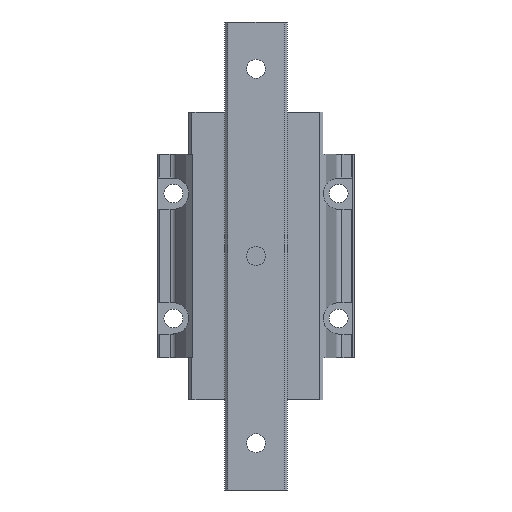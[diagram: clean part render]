
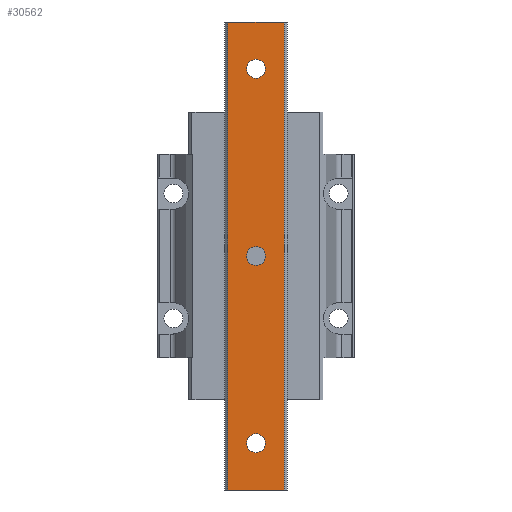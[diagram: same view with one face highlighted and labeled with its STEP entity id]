
A CAD part, front view. The second image highlights one B-rep face of the part: STEP entity #30562.
In plain terms, the highlighted planar face has unit normal (0, -1, 0).
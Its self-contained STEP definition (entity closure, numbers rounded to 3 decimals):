
#55 = CARTESIAN_POINT ( 'NONE',  ( 0., -17.5, -60. ) ) ;
#101 = EDGE_CURVE ( 'NONE', #19332, #13066, #31124, .T. ) ;
#131 = EDGE_LOOP ( 'NONE', ( #15120, #4806 ) ) ;
#446 = DIRECTION ( 'NONE',  ( 0., 1., 0. ) ) ;
#956 = CARTESIAN_POINT ( 'NONE',  ( 0., -17.5, 3. ) ) ;
#1385 = CIRCLE ( 'NONE', #14229, 3. ) ;
#2166 = CARTESIAN_POINT ( 'NONE',  ( 0., -17.5, 0. ) ) ;
#2475 = VERTEX_POINT ( 'NONE', #22530 ) ;
#2625 = LINE ( 'NONE', #31732, #27659 ) ;
#2924 = EDGE_LOOP ( 'NONE', ( #3908, #13651 ) ) ;
#3334 = CARTESIAN_POINT ( 'NONE',  ( 0., -17.5, 63. ) ) ;
#3851 = ORIENTED_EDGE ( 'NONE', *, *, #19208, .T. ) ;
#3908 = ORIENTED_EDGE ( 'NONE', *, *, #6992, .T. ) ;
#4785 = AXIS2_PLACEMENT_3D ( 'NONE', #8993, #29341, #15359 ) ;
#4806 = ORIENTED_EDGE ( 'NONE', *, *, #28007, .T. ) ;
#5387 = CARTESIAN_POINT ( 'NONE',  ( -9., -17.5, 75. ) ) ;
#5620 = CARTESIAN_POINT ( 'NONE',  ( 0., -17.5, 57. ) ) ;
#6992 = EDGE_CURVE ( 'NONE', #30629, #34779, #10687, .T. ) ;
#7406 = VERTEX_POINT ( 'NONE', #12048 ) ;
#7565 = DIRECTION ( 'NONE',  ( 0., 0., 1. ) ) ;
#8323 = DIRECTION ( 'NONE',  ( 1., 0., 0. ) ) ;
#8993 = CARTESIAN_POINT ( 'NONE',  ( 0., -17.5, 60. ) ) ;
#9254 = ORIENTED_EDGE ( 'NONE', *, *, #28619, .T. ) ;
#9532 = EDGE_CURVE ( 'NONE', #2475, #23368, #30627, .T. ) ;
#10308 = DIRECTION ( 'NONE',  ( 0., 0., 1. ) ) ;
#10329 = VECTOR ( 'NONE', #25547, 1000. ) ;
#10471 = DIRECTION ( 'NONE',  ( 0., 0., -1. ) ) ;
#10687 = CIRCLE ( 'NONE', #33364, 3. ) ;
#10934 = EDGE_LOOP ( 'NONE', ( #20945, #3851, #15747, #9254 ) ) ;
#10976 = VECTOR ( 'NONE', #10471, 1000. ) ;
#11790 = CARTESIAN_POINT ( 'NONE',  ( 9., -17.5, 75. ) ) ;
#11890 = DIRECTION ( 'NONE',  ( 0., 0., 1. ) ) ;
#12048 = CARTESIAN_POINT ( 'NONE',  ( 0., -17.5, -57. ) ) ;
#13066 = VERTEX_POINT ( 'NONE', #5620 ) ;
#13606 = CARTESIAN_POINT ( 'NONE',  ( 0., -17.5, 60. ) ) ;
#13651 = ORIENTED_EDGE ( 'NONE', *, *, #33742, .T. ) ;
#14192 = FACE_OUTER_BOUND ( 'NONE', #10934, .T. ) ;
#14229 = AXIS2_PLACEMENT_3D ( 'NONE', #31149, #25386, #7565 ) ;
#14537 = AXIS2_PLACEMENT_3D ( 'NONE', #35658, #446, #26489 ) ;
#14753 = PLANE ( 'NONE',  #30942 ) ;
#14893 = CARTESIAN_POINT ( 'NONE',  ( 0., -17.5, -3. ) ) ;
#15120 = ORIENTED_EDGE ( 'NONE', *, *, #21174, .T. ) ;
#15359 = DIRECTION ( 'NONE',  ( 0., 0., 1. ) ) ;
#15517 = CARTESIAN_POINT ( 'NONE',  ( 9., -17.5, -75. ) ) ;
#15596 = VERTEX_POINT ( 'NONE', #25959 ) ;
#15747 = ORIENTED_EDGE ( 'NONE', *, *, #9532, .T. ) ;
#15968 = CIRCLE ( 'NONE', #24542, 3. ) ;
#16881 = DIRECTION ( 'NONE',  ( 0., 0., 1. ) ) ;
#17361 = EDGE_CURVE ( 'NONE', #13066, #19332, #24285, .T. ) ;
#17855 = VECTOR ( 'NONE', #11890, 1000. ) ;
#19208 = EDGE_CURVE ( 'NONE', #20757, #2475, #34178, .T. ) ;
#19332 = VERTEX_POINT ( 'NONE', #3334 ) ;
#20188 = DIRECTION ( 'NONE',  ( 0., 1., 0. ) ) ;
#20757 = VERTEX_POINT ( 'NONE', #11790 ) ;
#20945 = ORIENTED_EDGE ( 'NONE', *, *, #27464, .T. ) ;
#21128 = ORIENTED_EDGE ( 'NONE', *, *, #101, .T. ) ;
#21174 = EDGE_CURVE ( 'NONE', #7406, #15596, #15968, .T. ) ;
#21862 = CARTESIAN_POINT ( 'NONE',  ( -9., -17.5, -75. ) ) ;
#22530 = CARTESIAN_POINT ( 'NONE',  ( -9., -17.5, 75. ) ) ;
#22853 = DIRECTION ( 'NONE',  ( 0., 1., 0. ) ) ;
#23368 = VERTEX_POINT ( 'NONE', #21862 ) ;
#23392 = FACE_BOUND ( 'NONE', #31135, .T. ) ;
#23946 = VERTEX_POINT ( 'NONE', #33563 ) ;
#24285 = CIRCLE ( 'NONE', #34050, 3. ) ;
#24542 = AXIS2_PLACEMENT_3D ( 'NONE', #55, #22853, #32426 ) ;
#25386 = DIRECTION ( 'NONE',  ( 0., 1., 0. ) ) ;
#25438 = DIRECTION ( 'NONE',  ( 0., 1., 0. ) ) ;
#25547 = DIRECTION ( 'NONE',  ( -1., 0., 0. ) ) ;
#25959 = CARTESIAN_POINT ( 'NONE',  ( 0., -17.5, -63. ) ) ;
#26489 = DIRECTION ( 'NONE',  ( 0., 0., 1. ) ) ;
#26633 = LINE ( 'NONE', #15517, #17855 ) ;
#26809 = DIRECTION ( 'NONE',  ( 0., 0., -1. ) ) ;
#27464 = EDGE_CURVE ( 'NONE', #23946, #20757, #26633, .T. ) ;
#27659 = VECTOR ( 'NONE', #8323, 1000. ) ;
#28007 = EDGE_CURVE ( 'NONE', #15596, #7406, #1385, .T. ) ;
#28619 = EDGE_CURVE ( 'NONE', #23368, #23946, #2625, .T. ) ;
#29301 = FACE_BOUND ( 'NONE', #2924, .T. ) ;
#29341 = DIRECTION ( 'NONE',  ( 0., 1., 0. ) ) ;
#29719 = ORIENTED_EDGE ( 'NONE', *, *, #17361, .T. ) ;
#30562 = ADVANCED_FACE ( 'NONE', ( #34860, #23392, #29301, #14192 ), #14753, .T. ) ;
#30627 = LINE ( 'NONE', #36729, #10976 ) ;
#30629 = VERTEX_POINT ( 'NONE', #956 ) ;
#30942 = AXIS2_PLACEMENT_3D ( 'NONE', #35420, #33141, #26809 ) ;
#31054 = CIRCLE ( 'NONE', #14537, 3. ) ;
#31124 = CIRCLE ( 'NONE', #4785, 3. ) ;
#31135 = EDGE_LOOP ( 'NONE', ( #21128, #29719 ) ) ;
#31149 = CARTESIAN_POINT ( 'NONE',  ( 0., -17.5, -60. ) ) ;
#31732 = CARTESIAN_POINT ( 'NONE',  ( -9., -17.5, -75. ) ) ;
#32426 = DIRECTION ( 'NONE',  ( 0., 0., 1. ) ) ;
#33141 = DIRECTION ( 'NONE',  ( 0., -1., 0. ) ) ;
#33364 = AXIS2_PLACEMENT_3D ( 'NONE', #2166, #20188, #16881 ) ;
#33563 = CARTESIAN_POINT ( 'NONE',  ( 9., -17.5, -75. ) ) ;
#33742 = EDGE_CURVE ( 'NONE', #34779, #30629, #31054, .T. ) ;
#34050 = AXIS2_PLACEMENT_3D ( 'NONE', #13606, #25438, #10308 ) ;
#34178 = LINE ( 'NONE', #5387, #10329 ) ;
#34779 = VERTEX_POINT ( 'NONE', #14893 ) ;
#34860 = FACE_BOUND ( 'NONE', #131, .T. ) ;
#35420 = CARTESIAN_POINT ( 'NONE',  ( -9., -17.5, -75. ) ) ;
#35658 = CARTESIAN_POINT ( 'NONE',  ( 0., -17.5, 0. ) ) ;
#36729 = CARTESIAN_POINT ( 'NONE',  ( -9., -17.5, -75. ) ) ;
